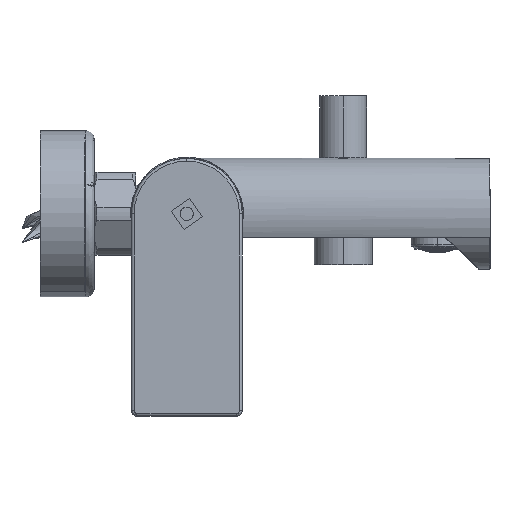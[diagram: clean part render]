
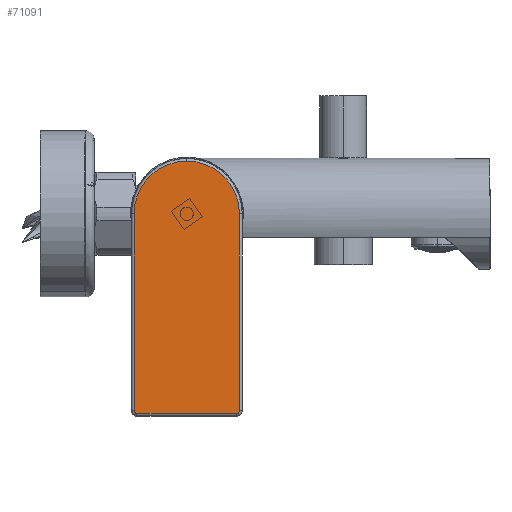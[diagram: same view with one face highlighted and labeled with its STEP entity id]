
A CAD part, front view. The second image highlights one B-rep face of the part: STEP entity #71091.
In plain terms, the highlighted planar face has unit normal (0, -1, 0).
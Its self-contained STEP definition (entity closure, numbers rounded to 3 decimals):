
#1198 = CARTESIAN_POINT ( 'NONE',  ( -169.665, -1.022, 19. ) ) ;
#13239 = EDGE_CURVE ( 'NONE', #22846, #163191, #171393, .T. ) ;
#18104 = VERTEX_POINT ( 'NONE', #176389 ) ;
#18857 = CARTESIAN_POINT ( 'NONE',  ( -188.665, -1.022, -71. ) ) ;
#19949 = EDGE_CURVE ( 'NONE', #131742, #83989, #63710, .T. ) ;
#22846 = VERTEX_POINT ( 'NONE', #1198 ) ;
#23116 = ORIENTED_EDGE ( 'NONE', *, *, #161049, .T. ) ;
#30399 = VECTOR ( 'NONE', #155612, 1000. ) ;
#33544 = CARTESIAN_POINT ( 'NONE',  ( -150.665, -1.022, -71.586 ) ) ;
#34390 = EDGE_CURVE ( 'NONE', #131742, #18104, #41031, .T. ) ;
#35824 = ORIENTED_EDGE ( 'NONE', *, *, #19949, .F. ) ;
#35860 = ORIENTED_EDGE ( 'NONE', *, *, #94001, .F. ) ;
#36592 = EDGE_CURVE ( 'NONE', #163311, #57391, #170841, .T. ) ;
#41031 = LINE ( 'NONE', #110174, #167653 ) ;
#42169 = DIRECTION ( 'NONE',  ( 0., 0., 1. ) ) ;
#47552 = CARTESIAN_POINT ( 'NONE',  ( -169.665, -1.022, 0. ) ) ;
#48045 = CARTESIAN_POINT ( 'NONE',  ( -188.665, -1.022, 0. ) ) ;
#49224 =( BOUNDED_CURVE ( )  B_SPLINE_CURVE ( 3, ( #58828, #33544, #144065, #102714 ),
 .UNSPECIFIED., .F., .F. ) 
 B_SPLINE_CURVE_WITH_KNOTS ( ( 4, 4 ),
 ( 0., 1. ),
 .UNSPECIFIED. ) 
 CURVE ( )  GEOMETRIC_REPRESENTATION_ITEM ( )  RATIONAL_B_SPLINE_CURVE ( ( 1., 0.805, 0.805, 1. ) ) 
 REPRESENTATION_ITEM ( '' )  );
#57391 = VERTEX_POINT ( 'NONE', #171578 ) ;
#58828 = CARTESIAN_POINT ( 'NONE',  ( -150.665, -1.022, -71. ) ) ;
#59017 = ORIENTED_EDGE ( 'NONE', *, *, #168114, .T. ) ;
#61053 = PLANE ( 'NONE',  #93680 ) ;
#63710 =( BOUNDED_CURVE ( )  B_SPLINE_CURVE ( 3, ( #91290, #103897, #106573, #130863 ),
 .UNSPECIFIED., .F., .F. ) 
 B_SPLINE_CURVE_WITH_KNOTS ( ( 4, 4 ),
 ( 0., 1. ),
 .UNSPECIFIED. ) 
 CURVE ( )  GEOMETRIC_REPRESENTATION_ITEM ( )  RATIONAL_B_SPLINE_CURVE ( ( 1., 0.805, 0.805, 1. ) ) 
 REPRESENTATION_ITEM ( '' )  );
#66293 = DIRECTION ( 'NONE',  ( 1., 0., 0. ) ) ;
#68666 = DIRECTION ( 'NONE',  ( 0., 0., -1. ) ) ;
#71091 = ADVANCED_FACE ( 'NONE', ( #85242 ), #61053, .T. ) ;
#78340 = ORIENTED_EDGE ( 'NONE', *, *, #36592, .T. ) ;
#80654 = CARTESIAN_POINT ( 'NONE',  ( -187.665, -1.022, -72. ) ) ;
#81107 = CARTESIAN_POINT ( 'NONE',  ( -150.665, -1.022, -71. ) ) ;
#83989 = VERTEX_POINT ( 'NONE', #18857 ) ;
#85242 = FACE_OUTER_BOUND ( 'NONE', #106641, .T. ) ;
#91290 = CARTESIAN_POINT ( 'NONE',  ( -187.665, -1.022, -72. ) ) ;
#93680 = AXIS2_PLACEMENT_3D ( 'NONE', #47552, #127463, #113997 ) ;
#93907 = AXIS2_PLACEMENT_3D ( 'NONE', #124646, #98536, #165986 ) ;
#94001 = EDGE_CURVE ( 'NONE', #163311, #18104, #49224, .T. ) ;
#95702 = CIRCLE ( 'NONE', #135806, 19. ) ;
#98200 = CARTESIAN_POINT ( 'NONE',  ( -188.665, -1.022, 0. ) ) ;
#98536 = DIRECTION ( 'NONE',  ( 0., -1., 0. ) ) ;
#102714 = CARTESIAN_POINT ( 'NONE',  ( -151.665, -1.022, -72. ) ) ;
#103897 = CARTESIAN_POINT ( 'NONE',  ( -188.25, -1.022, -72. ) ) ;
#106573 = CARTESIAN_POINT ( 'NONE',  ( -188.665, -1.022, -71.586 ) ) ;
#106641 = EDGE_LOOP ( 'NONE', ( #23116, #35824, #159614, #35860, #78340, #59017, #112811 ) ) ;
#110174 = CARTESIAN_POINT ( 'NONE',  ( -169.665, -1.022, -72. ) ) ;
#112150 = CARTESIAN_POINT ( 'NONE',  ( -169.665, -1.022, 0. ) ) ;
#112811 = ORIENTED_EDGE ( 'NONE', *, *, #13239, .T. ) ;
#113997 = DIRECTION ( 'NONE',  ( -1., 0., 0. ) ) ;
#114252 = CARTESIAN_POINT ( 'NONE',  ( -150.665, -1.022, 0. ) ) ;
#123872 = DIRECTION ( 'NONE',  ( 0., -1., 0. ) ) ;
#124646 = CARTESIAN_POINT ( 'NONE',  ( -169.665, -1.022, 0. ) ) ;
#127463 = DIRECTION ( 'NONE',  ( 0., -1., 0. ) ) ;
#130863 = CARTESIAN_POINT ( 'NONE',  ( -188.665, -1.022, -71. ) ) ;
#131742 = VERTEX_POINT ( 'NONE', #80654 ) ;
#135806 = AXIS2_PLACEMENT_3D ( 'NONE', #112150, #123872, #42169 ) ;
#138637 = LINE ( 'NONE', #98200, #139275 ) ;
#139275 = VECTOR ( 'NONE', #68666, 1000. ) ;
#144065 = CARTESIAN_POINT ( 'NONE',  ( -151.079, -1.022, -72. ) ) ;
#155612 = DIRECTION ( 'NONE',  ( 0., 0., 1. ) ) ;
#159614 = ORIENTED_EDGE ( 'NONE', *, *, #34390, .T. ) ;
#161049 = EDGE_CURVE ( 'NONE', #163191, #83989, #138637, .T. ) ;
#163191 = VERTEX_POINT ( 'NONE', #48045 ) ;
#163311 = VERTEX_POINT ( 'NONE', #81107 ) ;
#165986 = DIRECTION ( 'NONE',  ( 0., 0., 1. ) ) ;
#167653 = VECTOR ( 'NONE', #66293, 1000. ) ;
#168114 = EDGE_CURVE ( 'NONE', #57391, #22846, #95702, .T. ) ;
#170841 = LINE ( 'NONE', #114252, #30399 ) ;
#171393 = CIRCLE ( 'NONE', #93907, 19. ) ;
#171578 = CARTESIAN_POINT ( 'NONE',  ( -150.665, -1.022, 0. ) ) ;
#176389 = CARTESIAN_POINT ( 'NONE',  ( -151.665, -1.022, -72. ) ) ;
